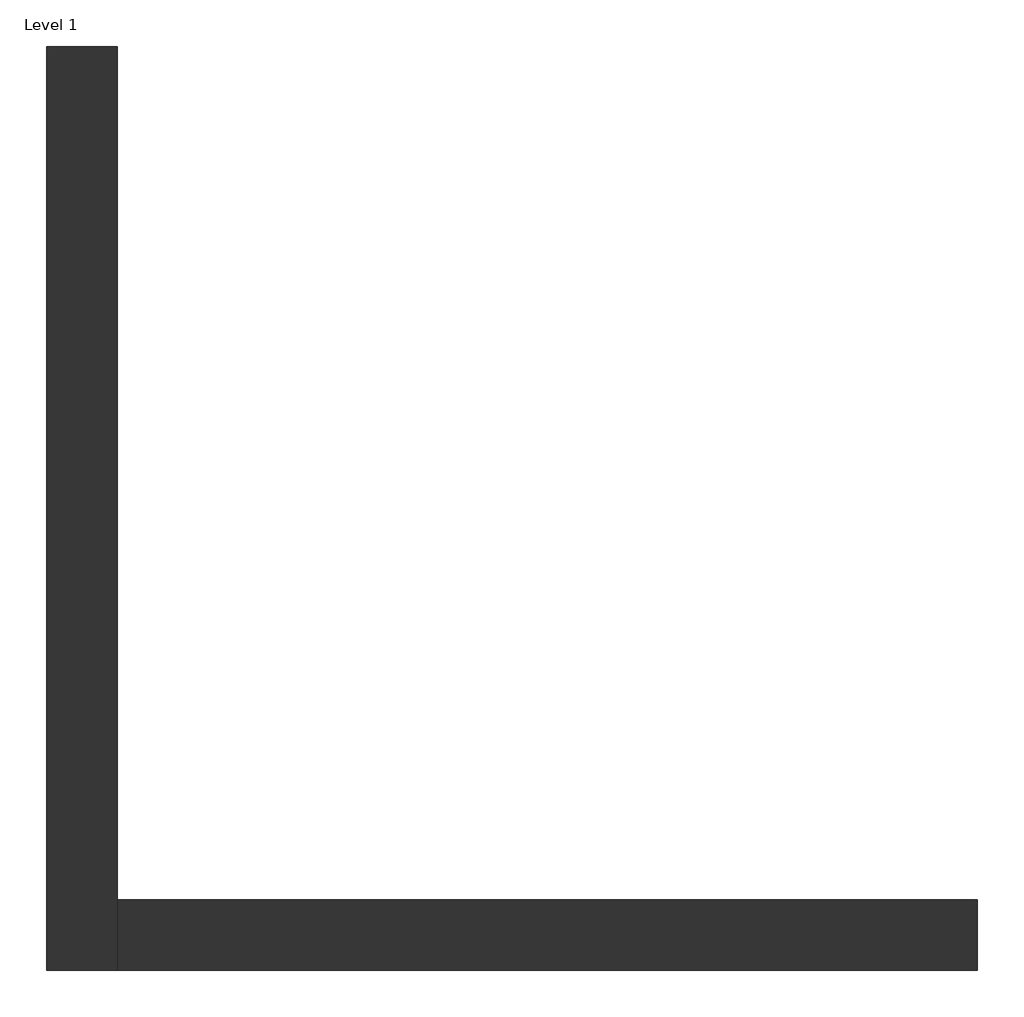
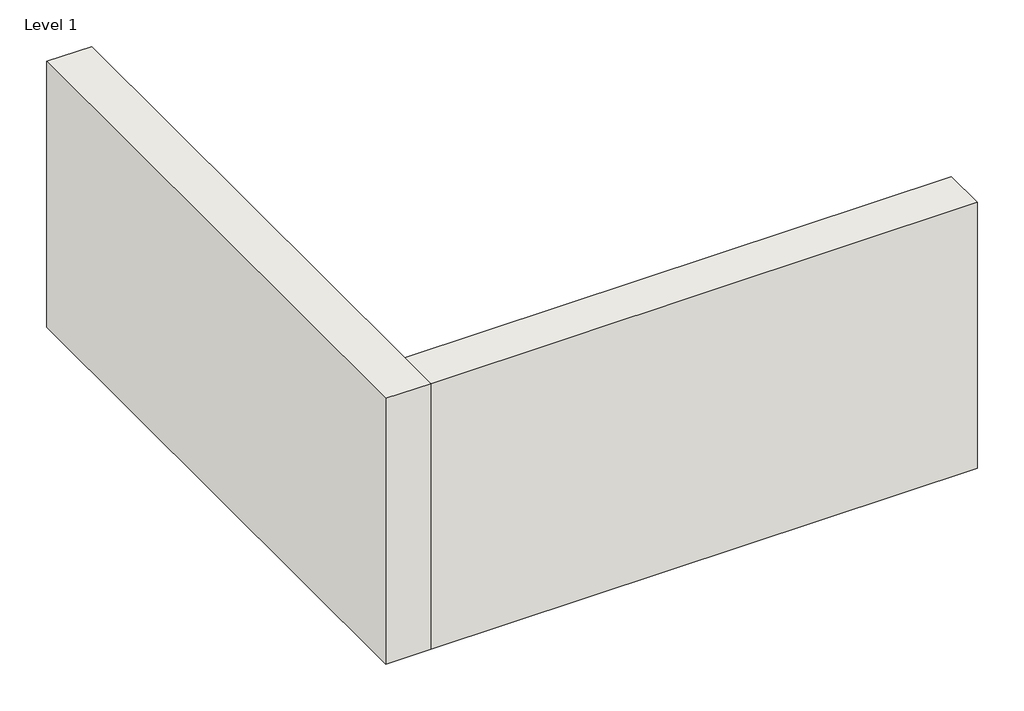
# One storey, incomplete: 2 walls.
"""IFC4 building model written with IfcOpenShell, lengths in millimetres."""

from ifc_helpers import new_model, si_unit, origin, origin_with_axes, place, context, project, spatial, polyline, outline, extrude, faceted_brep, element, save

model = new_model("IFC4")

# Units and contexts
model_context = context("Model", 3, world=origin())
ifc_project = project(units=[si_unit("LENGTHUNIT", "METRE", prefix="MILLI")], contexts=[model_context])

# Site, building, storey
site = spatial("IfcSite", under=ifc_project)
building = spatial("IfcBuilding", under=site)
storey = spatial("IfcBuildingStorey", under=building, Name="Level 1", Elevation=0.0)

# Walls
placement = place(None, origin())
element("IfcWall", 1, ObjectType="Wall 1", at=placement, inside=storey, context=model_context, shape_type="Brep", body=[
    faceted_brep([(-5330.1382624, 4448.8443008, 0.0), (-5330.1382624, 1794.5443008, 0.0), (-5330.1382624, 1794.5443008, 1270.0), (-5330.1382624, 4448.8443008, 1270.0), (-5126.9382624, 4448.8443008, 0.0), (-5126.9382624, 4448.8443008, 1270.0), (-5126.9382624, 1997.7443008, 1270.0), (-5126.9382624, 1794.5443008, 1270.0), (-5126.9382624, 1794.5443008, 0.0), (-5126.9382624, 1997.7443008, 0.0)], [[[0, 1, 2, 3]], [[4, 5, 6, 7, 8, 9]], [[1, 0, 4, 9, 8]], [[3, 2, 7, 6, 5]], [[0, 3, 5, 4]], [[2, 1, 8, 7]]]),
])
element("IfcWall", 2, ObjectType="Wall 1", at=placement, inside=storey, context=model_context, shape_type="SweptSolid", body=[
    extrude(outline(polyline([(-5126.9382624, 1997.7443008), (-2656.7882624, 1997.7443008), (-2656.7882624, 1794.5443008), (-5126.9382624, 1794.5443008), (-5126.9382624, 1997.7443008)])), origin_with_axes(), (0.0, 0.0, 1.0), 1270.0),
])

save(model, "model.ifc")
